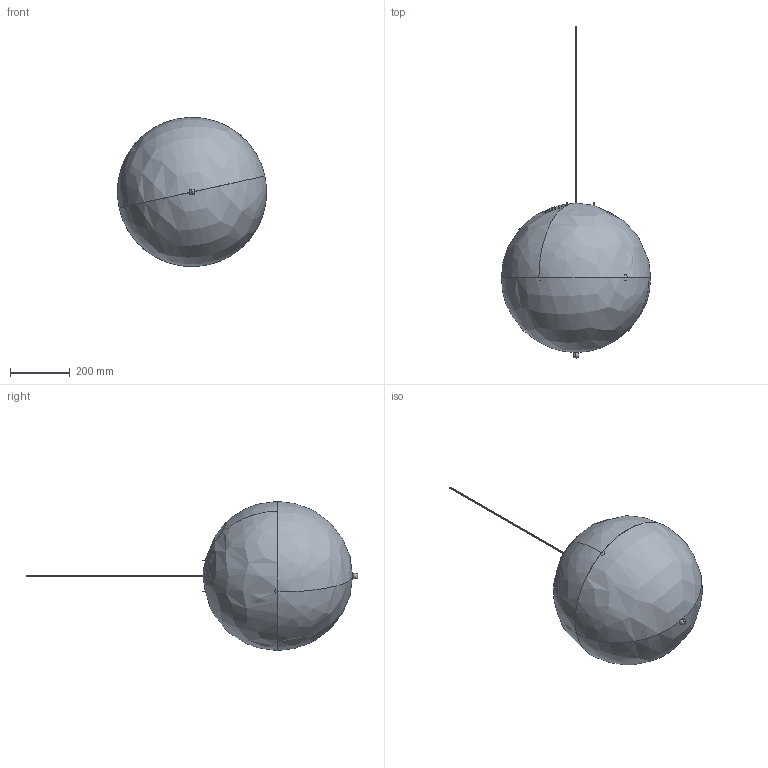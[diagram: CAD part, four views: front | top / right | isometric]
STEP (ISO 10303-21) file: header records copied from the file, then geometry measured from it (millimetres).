
FILE_DESCRIPTION (( 'STEP AP214' ), '1' );
FILE_NAME ('VP Globe Large.STEP', '2013-01-14T19:01:17', ( '' ), ( '' ), 'SwSTEP 2.0', 'SolidWorks 2013', '' );
FILE_SCHEMA (( 'AUTOMOTIVE_DESIGN' ));
Length unit declared in the file: millimetre
Products named in the file (11): Gevindstang, lille sfµre,bund_til brugervejl; Lille Sfµrecut_bund; Stor Sfµrecut_bund; VP Globe Large; cable1000; Middle part; 28208 Kugle; 3005100 Akrylskal Ï50 overdel Globe (transparent)_KugleskalB; 3005100 Akrylskal Ï50 overdel Globe (transparent); Kugle-snor ﾏ3; Lille Sfµrecut top (rigtig farve)_top
Assembly tree (13 placements, depth 2):
  VP Globe Large
    Stor Sfµrecut_bund  x2
    Lille Sfµrecut_bund
    Gevindstang, lille sfµre,bund_til brugervejl
    Lille Sfµrecut top (rigtig farve)_top
    Kugle-snor ﾏ3  x3
    3005100 Akrylskal Ï50 overdel Globe (transparent)
    3005100 Akrylskal Ï50 overdel Globe (transparent)_KugleskalB
    28208 Kugle
    Middle part
    cable1000
Bounding box: 500 x 1112.1 x 500 mm (x, y, z)
Volume: 3381090.5 mm3; surface area: 2107736.1 mm2
Topology: 13 solids, 13 shells, 142 faces, 401 edges, 246 vertices
Faces by surface type: cylinder 68, bspline 26, plane 24, cone 16, torus 8
Entity records: 7198 total; most frequent: CARTESIAN_POINT 2628, ORIENTED_EDGE 646, DIRECTION 645, EDGE_CURVE 323, AXIS2_PLACEMENT_3D 280, VERTEX_POINT 206, CIRCLE 166, EDGE_LOOP 139
